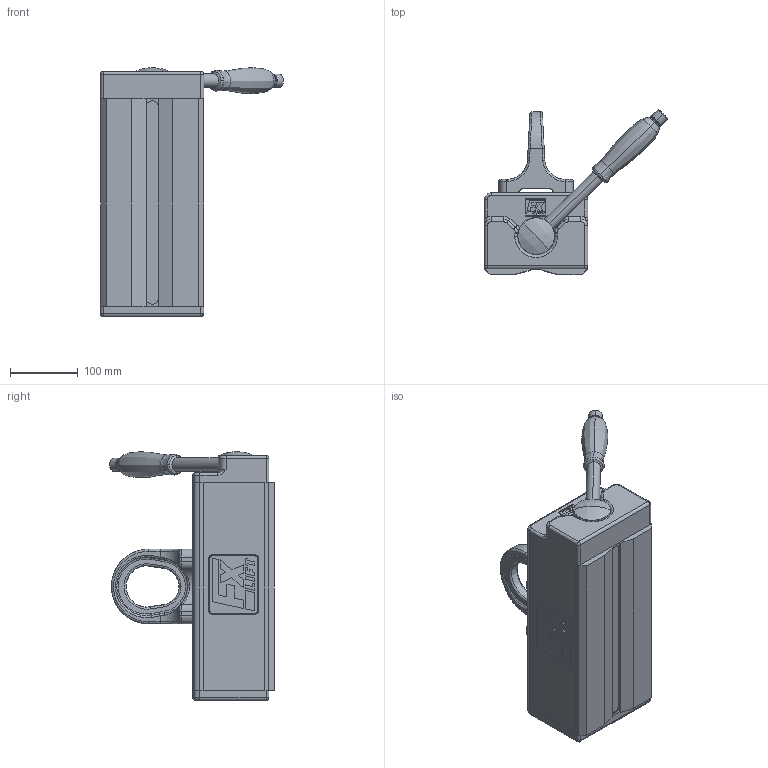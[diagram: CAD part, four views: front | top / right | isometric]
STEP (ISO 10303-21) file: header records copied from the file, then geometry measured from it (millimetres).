
FILE_DESCRIPTION(('STEP AP214'),'1');
FILE_NAME('1101_1000.stp','2017-06-12T09:30:12',('TraceParts'),('TraceParts S.A.'),'Spatial InterOp 3D',' ',' ');
FILE_SCHEMA(('automotive_design'));
Length unit declared in the file: millimetre
Products named in the file (1): 1101_1000
Bounding box: 269.49 x 242.73 x 366.95 mm (x, y, z)
Volume: 6509337.2 mm3; surface area: 325897.5 mm2
Topology: 1 solids, 1 shells, 771 faces, 1996 edges, 1263 vertices
Faces by surface type: plane 428, bspline 139, cylinder 133, cone 34, torus 31, sphere 6
Entity records: 37096 total; most frequent: CARTESIAN_POINT 19209, ORIENTED_EDGE 3944, DIRECTION 3291, EDGE_CURVE 1972, LINE 1273, VECTOR 1273, VERTEX_POINT 1263, AXIS2_PLACEMENT_3D 1009
